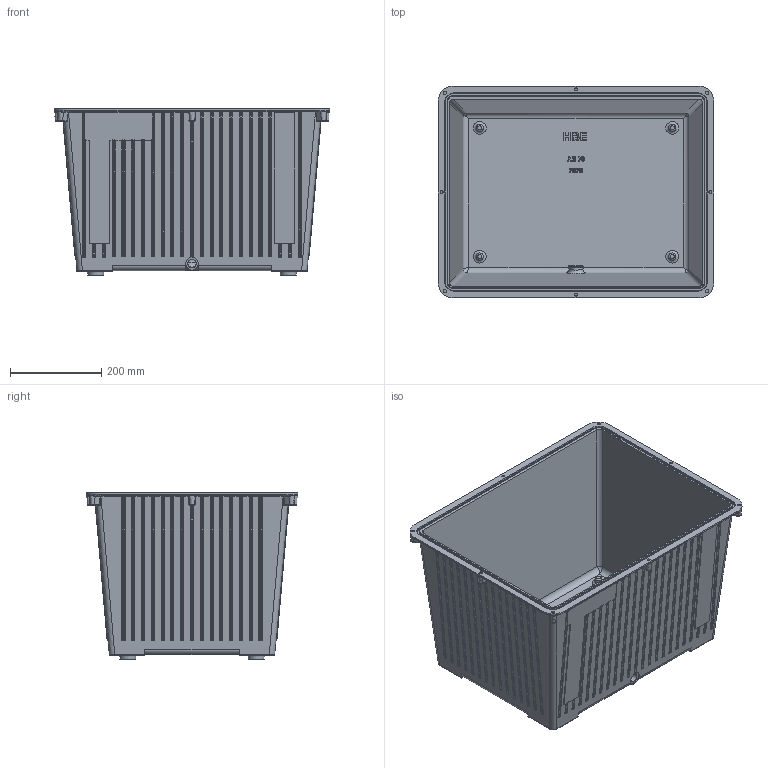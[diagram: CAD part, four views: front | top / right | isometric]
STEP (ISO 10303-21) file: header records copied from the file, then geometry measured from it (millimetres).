
FILE_DESCRIPTION( ( 'STEP AP214' ), '1' );
FILE_NAME( 'F:/HBE/Fertigungszeichnungen/Behälter AB 70.stp', '2007-04-04T09:14:39', ( ' ' ), ( ' ' ), 'XStep 1.0', ' ', ' ' );
FILE_SCHEMA( ( 'CONFIG_CONTROL_DESIGN) ( )' ) );
Length unit declared in the file: metre
Products named in the file (1): 1
Bounding box: 605 x 465 x 365 mm (x, y, z)
Volume: 5605531.3 mm3; surface area: 1793591.5 mm2
Topology: 1 solids, 1 shells, 1092 faces, 2876 edges, 1826 vertices
Faces by surface type: cylinder 518, plane 345, bspline 101, torus 60, cone 32, extrusion 20, sphere 16
Full cylindrical faces by diameter (mm): 6.647 x8, 8.376 x4, 18.631 x1, 28 x1
Entity records: 59261 total; most frequent: CARTESIAN_POINT 25049, ORIENTED_EDGE 5556, DIRECTION 4908, EDGE_CURVE 2778, AXIS2_PLACEMENT_3D 1809, VERTEX_POINT 1807, VECTOR 1290, LINE 1270
